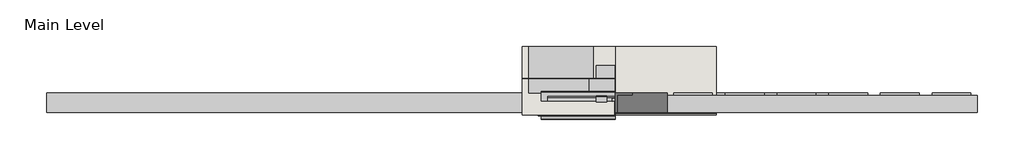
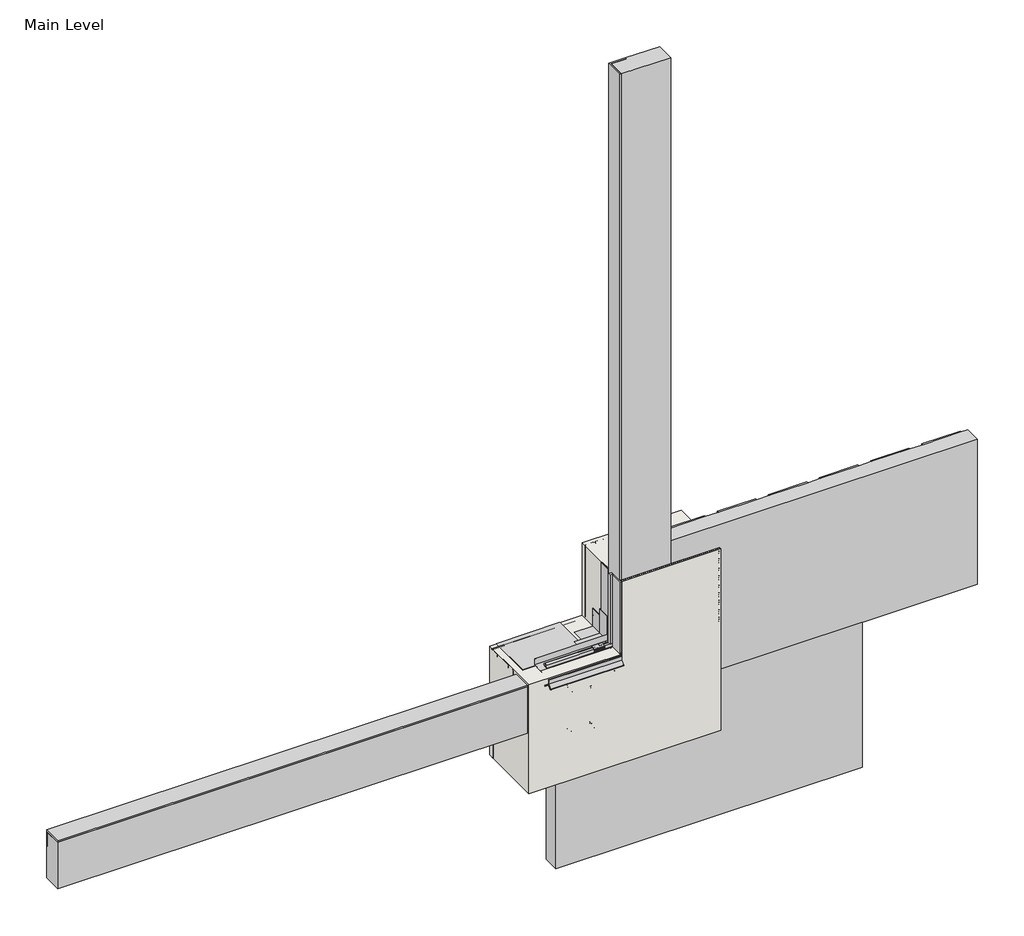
# One storey, incomplete: 23 proxies, 1 wall.
"""IFC4 building model written with IfcOpenShell, lengths in millimetres."""

from ifc_helpers import new_model, si_unit, frame, origin, place, context, project, spatial, polyline, outline, extrude, transform, mapped, element, save
from components import generic_models_31547c53, generic_models_d28646c3, generic_models_6d26ea6e, generic_models_db5184ed, generic_models_008a3d59, generic_models_12b73edd, generic_models_8c792c9c, proxy_4c3b85e5, proxy_c7e97176, proxy_8bbb4755, finish_coat_filler_finish_coat_filler_9b34bf11, masonry_sill_masonry_sill_3f966eea, masonry_sill3_masonry_sill_d59b7927, masonry_sill4_masonry_sill_9228ef93, proxy_a3fd9b0b, proxy_3a0ad636, proxy_0073da47, proxy_6f3203ff, window_header_window_header_abd4ef46, wood_blocking_5320d369

model = new_model("IFC4")

# Units and contexts
model_context = context("Model", 3, world=origin())
ifc_project = project(units=[si_unit("LENGTHUNIT", "METRE", prefix="MILLI")], contexts=[model_context])

# Site, building, storey
site = spatial("IfcSite", under=ifc_project)
building = spatial("IfcBuilding", under=site)
storey = spatial("IfcBuildingStorey", under=building, Name="Main Level", Elevation=0.0)

# Proxies
placement = place(None, origin())
generic_models_shape = generic_models_31547c53(model_context)
element("IfcBuildingElementProxy", 1, Name="Durabond Generic Model Sealant Vent : Durabond Generic Model Sealant Vent", ObjectType="Durabond Generic Model Sealant Vent : Durabond Generic Model Sealant Vent", at=placement, inside=storey, context=model_context, shape_type="MappedRepresentation", body=[
    mapped(generic_models_shape, transform((26800.7195523, 590.8476543, 464.646745), x_axis=(1.0, 0.0, 0.0), y_axis=(0.0, 0.08715574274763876, -0.9961946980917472), z_axis=(0.0, 0.9961946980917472, 0.08715574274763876))),
])
generic_models_2_shape = generic_models_d28646c3(model_context)
element("IfcBuildingElementProxy", 2, Name="CRAi Generic Model Line Based Drip Deflector : CRAi Generic Model Line Based Drip Deflector", ObjectType="CRAi Generic Model Line Based Drip Deflector : CRAi Generic Model Line Based Drip Deflector", at=placement, inside=storey, context=model_context, shape_type="MappedRepresentation", body=[
    mapped(generic_models_2_shape, transform((26855.8851773, 535.1829375, 451.8088934), x_axis=(0.0, 0.996194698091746, 0.08715574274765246), y_axis=(-1.0, 0.0, 0.0), z_axis=(0.0, -0.0871557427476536, 0.996194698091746))),
])
generic_models_3_shape = generic_models_6d26ea6e(model_context)
generic_models_4_shape = generic_models_db5184ed(model_context)
generic_models_5_shape = generic_models_008a3d59(model_context)
generic_models_6_shape = generic_models_12b73edd(model_context)
element("IfcBuildingElementProxy", 3, Name="CRAi Generic Model Mesh Piece Face Based : CRAi Generic Model Mesh Piece Face Based", ObjectType="CRAi Generic Model Mesh Piece Face Based : CRAi Generic Model Mesh Piece Face Based", at=placement, inside=storey, context=model_context, shape_type="MappedRepresentation", body=[
    mapped(generic_models_3_shape, transform((27054.3226773, 541.9066297, 606.6633203), x_axis=(-1.0, 0.0, 0.0), y_axis=(0.0, 0.0, -1.0), z_axis=(0.0, -1.0, 0.0))),
    mapped(generic_models_4_shape, transform((27054.3226773, 541.9066297, 606.6633203), x_axis=(-1.0, 0.0, 0.0), y_axis=(0.0, 0.0, -1.0), z_axis=(0.0, -1.0, 0.0))),
    mapped(generic_models_5_shape, transform((27054.3226773, 541.9066297, 606.6633203), x_axis=(-1.0, 0.0, 0.0), y_axis=(0.0, 0.0, -1.0), z_axis=(0.0, -1.0, 0.0))),
    mapped(generic_models_6_shape, transform((27054.3226773, 541.9066297, 606.6633203), x_axis=(-1.0, 0.0, 0.0), y_axis=(0.0, 0.0, -1.0), z_axis=(0.0, -1.0, 0.0))),
])
generic_models_7_shape = generic_models_8c792c9c(model_context)
element("IfcBuildingElementProxy", 4, Name="Durabond Generic Model Screw w Standard Wall Plate : Durabond Generic Model Screw w Standard Wall Plate", ObjectType="Durabond Generic Model Screw w Standard Wall Plate : Durabond Generic Model Screw w Standard Wall Plate", at=placement, inside=storey, context=model_context, shape_type="MappedRepresentation", body=[
    mapped(generic_models_7_shape, transform((26654.2726773, 547.4628797, 381.125778), x_axis=(1.0, 0.0, 0.0), y_axis=(0.0, 0.0, 1.0), z_axis=(0.0, -1.0, 0.0))),
])
element("IfcBuildingElementProxy", 5, Name="Durabond Generic Model Screw w Standard Wall Plate : Durabond Generic Model Screw w Standard Wall Plate", ObjectType="Durabond Generic Model Screw w Standard Wall Plate : Durabond Generic Model Screw w Standard Wall Plate", at=placement, inside=storey, context=model_context, shape_type="MappedRepresentation", body=[
    mapped(generic_models_7_shape, transform((26743.1726773, 544.2878797, 349.375778), x_axis=(1.0, 0.0, 0.0), y_axis=(0.0, 0.0, 1.0), z_axis=(0.0, -1.0, 0.0))),
])
element("IfcBuildingElementProxy", 6, Name="Durabond Generic Model Screw w Standard Wall Plate : Durabond Generic Model Screw w Standard Wall Plate", ObjectType="Durabond Generic Model Screw w Standard Wall Plate : Durabond Generic Model Screw w Standard Wall Plate", at=placement, inside=storey, context=model_context, shape_type="MappedRepresentation", body=[
    mapped(generic_models_7_shape, transform((26743.1726773, 544.2878797, 196.975778), x_axis=(1.0, 0.0, 0.0), y_axis=(0.0, 0.0, 1.0), z_axis=(0.0, -1.0, 0.0))),
])
element("IfcBuildingElementProxy", 7, Name="Durabond Generic Model Screw w Standard Wall Plate : Durabond Generic Model Screw w Standard Wall Plate", ObjectType="Durabond Generic Model Screw w Standard Wall Plate : Durabond Generic Model Screw w Standard Wall Plate", at=placement, inside=storey, context=model_context, shape_type="MappedRepresentation", body=[
    mapped(generic_models_7_shape, transform((26654.2726773, 547.4628797, 209.675778), x_axis=(1.0, 0.0, 0.0), y_axis=(0.0, 0.0, 1.0), z_axis=(0.0, -1.0, 0.0))),
])
proxy_shape = proxy_4c3b85e5(model_context)
element("IfcBuildingElementProxy", 8, Name="Durabond Generic Model Insulite Select Extruded Boundary Board : 3\"", ObjectType="Durabond Generic Model Insulite Select Extruded Boundary Board : 3\"", at=placement, inside=storey, context=model_context, shape_type="MappedRepresentation", body=[
    mapped(proxy_shape, transform((25839.8851773, 624.4566297, 349.375778), x_axis=(-1.0, 0.0, 0.0), y_axis=(0.0, 0.0, -1.0), z_axis=(0.0, -1.0, 0.0))),
])
proxy_2_shape = proxy_c7e97176(model_context)
element("IfcBuildingElementProxy", 9, Name="Durabond Generic Model Insulite Select Extruded Boundary Board : 3\"", ObjectType="Durabond Generic Model Insulite Select Extruded Boundary Board : 3\"", at=placement, inside=storey, context=model_context, shape_type="MappedRepresentation", body=[
    mapped(proxy_2_shape, transform((26957.4851773, 624.4566297, 1670.175778), x_axis=(0.0, 0.0, 1.0), y_axis=(-1.0, 0.0, 0.0), z_axis=(0.0, -1.0, 0.0))),
])
proxy_3_shape = proxy_8bbb4755(model_context)
element("IfcBuildingElementProxy", 10, Name="Durabond Generic Model Insulite Select Extruded Insulation Board : 3\"", ObjectType="Durabond Generic Model Insulite Select Extruded Insulation Board : 3\"", at=placement, inside=storey, context=model_context, shape_type="MappedRepresentation", body=[
    mapped(proxy_3_shape, transform((27211.4851773, 624.4566297, -57.024222), x_axis=(1.0, 0.0, 0.0), y_axis=(0.0, 0.0, 1.0), z_axis=(0.0, -1.0, 0.0))),
])
element("IfcBuildingElementProxy", 11, Name="Durabond Generic Model Insulite Select Extruded Insulation Board : 3\"", ObjectType="Durabond Generic Model Insulite Select Extruded Insulation Board : 3\"", at=placement, inside=storey, context=model_context, shape_type="MappedRepresentation", body=[
    mapped(proxy_3_shape, transform((27668.6851773, 624.4566297, 552.575778), x_axis=(1.0, 0.0, 0.0), y_axis=(0.0, 0.0, 1.0), z_axis=(0.0, -1.0, 0.0))),
])
finish_coat_filler_finish_coat_filler_shape = finish_coat_filler_finish_coat_filler_9b34bf11(model_context)
element("IfcBuildingElementProxy", 12, Name="Finish Coat Filler : Finish Coat Filler", ObjectType="Finish Coat Filler : Finish Coat Filler", at=placement, inside=storey, context=model_context, shape_type="MappedRepresentation", body=[
    mapped(finish_coat_filler_finish_coat_filler_shape, transform((0.0, 0.0, -152.4), x_axis=(1.0, 0.0, 0.0), y_axis=(0.0, 1.0, 0.0), z_axis=(0.0, 0.0, 1.0))),
])
masonry_sill_masonry_sill_shape = masonry_sill_masonry_sill_3f966eea(model_context)
element("IfcBuildingElementProxy", 13, Name="Masonry Sill : Masonry Sill", ObjectType="Masonry Sill : Masonry Sill", at=placement, inside=storey, context=model_context, shape_type="MappedRepresentation", body=[
    mapped(masonry_sill_masonry_sill_shape, transform((0.0, 0.0, 0.0), x_axis=(1.0, 0.0, 0.0), y_axis=(0.0, 1.0, 0.0), z_axis=(0.0, 0.0, 1.0))),
])
masonry_sill3_masonry_sill_shape = masonry_sill3_masonry_sill_d59b7927(model_context)
element("IfcBuildingElementProxy", 14, Name="Masonry Sill3 : Masonry Sill", ObjectType="Masonry Sill3 : Masonry Sill", at=placement, inside=storey, context=model_context, shape_type="MappedRepresentation", body=[
    mapped(masonry_sill3_masonry_sill_shape, transform((0.0, 0.0, 0.0), x_axis=(1.0, 0.0, 0.0), y_axis=(0.0, 1.0, 0.0), z_axis=(0.0, 0.0, 1.0))),
])
masonry_sill4_masonry_sill_shape = masonry_sill4_masonry_sill_9228ef93(model_context)
element("IfcBuildingElementProxy", 15, Name="Masonry Sill4 : Masonry Sill", ObjectType="Masonry Sill4 : Masonry Sill", at=placement, inside=storey, context=model_context, shape_type="MappedRepresentation", body=[
    mapped(masonry_sill4_masonry_sill_shape, transform((0.0, 0.0, -101.6), x_axis=(1.0, 0.0, 0.0), y_axis=(0.0, 1.0, 0.0), z_axis=(0.0, 0.0, 1.0))),
])
proxy_4_shape = proxy_a3fd9b0b(model_context)
element("IfcBuildingElementProxy", 16, Name="CRAi Generic Model Metal Stud : Metal Framing Stud - 1\" x 3.5\"", ObjectType="CRAi Generic Model Metal Stud : Metal Framing Stud - 1\" x 3.5\"", at=placement, inside=storey, context=model_context, shape_type="MappedRepresentation", body=[
    mapped(proxy_4_shape, transform((26876.5226773, 726.0566297, 0.0), x_axis=(1.0, 0.0, 0.0), y_axis=(0.0, 1.0, 0.0), z_axis=(0.0, 0.0, 1.0))),
])
proxy_5_shape = proxy_3a0ad636(model_context)
element("IfcBuildingElementProxy", 17, Name="CRAi Generic Model Metal Stud : Metal Framing Stud - 1\" x 3.5\"", ObjectType="CRAi Generic Model Metal Stud : Metal Framing Stud - 1\" x 3.5\"", at=placement, inside=storey, context=model_context, shape_type="MappedRepresentation", body=[
    mapped(proxy_5_shape, transform((26876.5226773, 719.7066297, 0.0), x_axis=(1.0, 0.0, 0.0), y_axis=(0.0, 1.0, 0.0), z_axis=(0.0, 0.0, 1.0))),
])
proxy_6_shape = proxy_0073da47(model_context)
element("IfcBuildingElementProxy", 18, Name="CRAi Generic Model Metal Stud : Metal Framing Stud - 1\" x 3.5\"", ObjectType="CRAi Generic Model Metal Stud : Metal Framing Stud - 1\" x 3.5\"", at=placement, inside=storey, context=model_context, shape_type="MappedRepresentation", body=[
    mapped(proxy_6_shape, transform((26914.6226773, 719.7066297, 0.0), x_axis=(-1.0, 0.0, 0.0), y_axis=(0.0, -1.0, 0.0), z_axis=(0.0, 0.0, 1.0))),
])
proxy_7_shape = proxy_6f3203ff(model_context)
element("IfcBuildingElementProxy", 19, Name="CRAi Generic Model Metal Stud : Metal Framing Stud - 1\" x 3.5\"", ObjectType="CRAi Generic Model Metal Stud : Metal Framing Stud - 1\" x 3.5\"", at=placement, inside=storey, context=model_context, shape_type="MappedRepresentation", body=[
    mapped(proxy_7_shape, transform((26508.2226773, 719.7066297, 0.0), x_axis=(-1.0, 0.0, 0.0), y_axis=(0.0, -1.0, 0.0), z_axis=(0.0, 0.0, 1.0))),
])
window_header_window_header_shape = window_header_window_header_abd4ef46(model_context)
element("IfcBuildingElementProxy", 20, Name="Window Header : Window Header", ObjectType="Window Header : Window Header", at=placement, inside=storey, context=model_context, shape_type="MappedRepresentation", body=[
    mapped(window_header_window_header_shape, transform((0.0, -6.35, 0.0), x_axis=(1.0, 0.0, 0.0), y_axis=(0.0, 1.0, 0.0), z_axis=(0.0, 0.0, 1.0))),
])
wood_blocking_shape = wood_blocking_5320d369(model_context)
element("IfcBuildingElementProxy", 21, Name="CRAi Generic Model Line Based Metal Framing Track : Wood Blocking", ObjectType="CRAi Generic Model Line Based Metal Framing Track : Wood Blocking", at=placement, inside=storey, context=model_context, shape_type="MappedRepresentation", body=[
    mapped(wood_blocking_shape, transform((26489.1726773, 643.5066297, 304.8), x_axis=(1.0, 0.0, 0.0), y_axis=(0.0, 1.0, 0.0), z_axis=(0.0, 0.0, 1.0))),
])
element("IfcBuildingElementProxy", 22, Name="CRAi Generic Model Line Based Metal Framing Track : Wood Blocking", ObjectType="CRAi Generic Model Line Based Metal Framing Track : Wood Blocking", at=placement, inside=storey, context=model_context, shape_type="MappedRepresentation", body=[
    mapped(wood_blocking_shape, transform((26489.1726773, 795.907101, 457.2), x_axis=(1.0, 0.0, 0.0), y_axis=(0.0, -1.0, 0.0), z_axis=(0.0, 0.0, -1.0))),
])
element("IfcBuildingElementProxy", 23, Name="CRAi Generic Model Line Based Metal Framing Track : Wood Blocking", ObjectType="CRAi Generic Model Line Based Metal Framing Track : Wood Blocking", at=placement, inside=storey, context=model_context, shape_type="MappedRepresentation", body=[
    mapped(wood_blocking_shape, transform((26489.1726773, 795.9066297, 304.8), x_axis=(1.0, 0.0, 0.0), y_axis=(0.0, -1.0, 0.0), z_axis=(0.0, 0.0, -1.0))),
])

# Wall
element("IfcWall", 24, ObjectType="189mm (7.5”) EIFS Field Applied on Mtl. Stud Layer - 50mm Grooved Insulation Board Metal Stud Wall(AirStop) 2", at=placement, inside=storey, context=model_context, shape_type="SweptSolid", body=[
    extrude(outline(polyline([(0.0, 26489.1726773), (0.0, 27251.1726773), (762.0, 27251.1726773), (762.0, 26857.4726773), (457.2, 26857.4726773), (457.2, 26489.1726773), (0.0, 26489.1726773)])), frame((0.0, 538.7316297, 0.0), z_axis=(0.0, 1.0, 0.0), x_axis=(0.0, 0.0, 1.0)), (0.0, 0.0, 1.0), 269.875),
])

save(model, "model.ifc")
